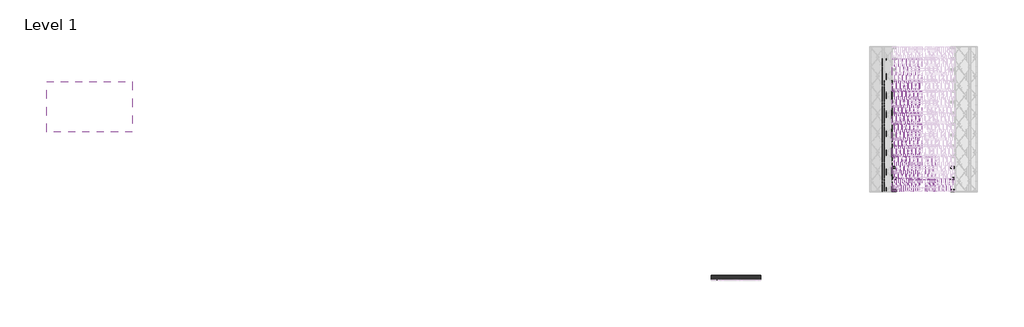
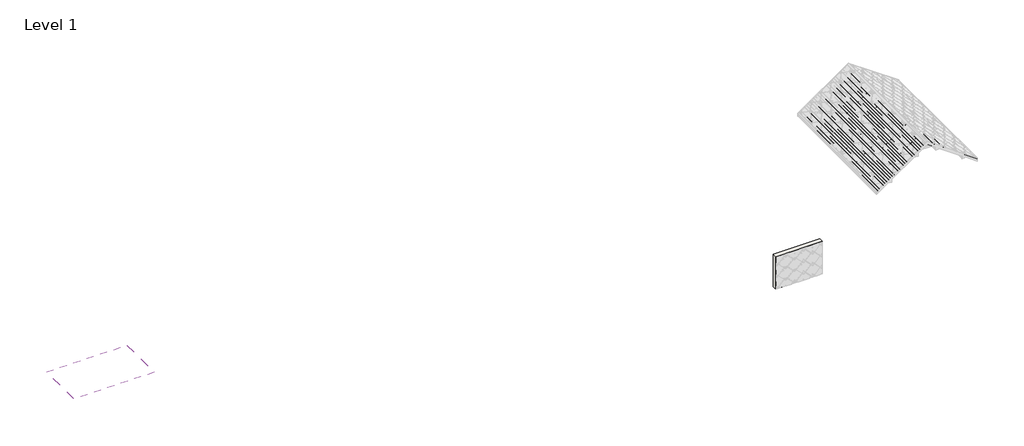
# One storey, part 1 of 5: 118 beams, 1 roof, 1 wall.
"""IFC4 building model written with IfcOpenShell, lengths in millimetres."""

from ifc_helpers import new_model, si_unit, frame, origin, origin_with_axes, place, context, project, spatial, polyline, outline, extrude, transform, mapped, element, save
from components import structural_framing_100_structural_framing_15_5def26a6, structural_framing_101_structural_framing_15_d9cf2b80, structural_framing_103_structural_framing_15_b869128d, structural_framing_109_structural_framing_15_08dff260, structural_framing_1_structural_framing_1_4f4e03de, structural_framing_14_structural_framing_1_1f79d0da, structural_framing_163_structural_framing_15_fd44f6a2, structural_framing_159_structural_framing_15_e730e61d, structural_framing_296_structural_framing_296_04115515

model = new_model("IFC4")

# Units and contexts
model_context = context("Model", 3, world=origin())
ifc_project = project(units=[si_unit("LENGTHUNIT", "METRE", prefix="MILLI")], contexts=[model_context])

# Site, building, storey
site = spatial("IfcSite", under=ifc_project)
building = spatial("IfcBuilding", under=site)
storey = spatial("IfcBuildingStorey", under=building, Name="Level 1", Elevation=0.0)

# Beams
placement = place(None, origin())
structural_framing_100_structural_framing_15_shape = structural_framing_100_structural_framing_15_5def26a6(model_context)
element("IfcBeam", 1, ObjectType="Structural Framing 100 : Structural Framing 15", at=placement, inside=storey, context=model_context, shape_type="MappedRepresentation", body=[
    mapped(structural_framing_100_structural_framing_15_shape, transform((-2427.8516115, -870.0, -1700.0), x_axis=(1.0, 0.0, 0.0), y_axis=(0.0, 1.0, 0.0), z_axis=(0.0, 0.0, 1.0))),
])
structural_framing_101_structural_framing_15_shape = structural_framing_101_structural_framing_15_d9cf2b80(model_context)
element("IfcBeam", 2, ObjectType="Structural Framing 101 : Structural Framing 15", at=placement, inside=storey, context=model_context, shape_type="MappedRepresentation", body=[
    mapped(structural_framing_101_structural_framing_15_shape, transform((-2427.8516115, -3340.0, -1700.0), x_axis=(1.0, 0.0, 0.0), y_axis=(0.0, 1.0, 0.0), z_axis=(0.0, 0.0, 1.0))),
])
element("IfcBeam", 3, ObjectType="Structural Framing 102 : Structural Framing 15", at=placement, inside=storey, context=model_context, shape_type="MappedRepresentation", body=[
    mapped(structural_framing_101_structural_framing_15_shape, transform((-2427.8516115, -5740.0, -1700.0), x_axis=(1.0, 0.0, 0.0), y_axis=(0.0, 1.0, 0.0), z_axis=(0.0, 0.0, 1.0))),
])
structural_framing_103_structural_framing_15_shape = structural_framing_103_structural_framing_15_b869128d(model_context)
element("IfcBeam", 4, ObjectType="Structural Framing 103 : Structural Framing 15", at=placement, inside=storey, context=model_context, shape_type="MappedRepresentation", body=[
    mapped(structural_framing_103_structural_framing_15_shape, transform((-2427.8516115, -8140.0, -1700.0), x_axis=(1.0, 0.0, 0.0), y_axis=(0.0, 1.0, 0.0), z_axis=(0.0, 0.0, 1.0))),
])
element("IfcBeam", 5, ObjectType="Structural Framing 106 : Structural Framing 15", at=placement, inside=storey, context=model_context, shape_type="MappedRepresentation", body=[
    mapped(structural_framing_100_structural_framing_15_shape, transform((-2570.6664121, -2470.0, -1800.0), x_axis=(1.0, 0.0, 0.0), y_axis=(0.0, 1.0, 0.0), z_axis=(0.0, 0.0, 1.0))),
])
element("IfcBeam", 6, ObjectType="Structural Framing 107 : Structural Framing 15", at=placement, inside=storey, context=model_context, shape_type="MappedRepresentation", body=[
    mapped(structural_framing_100_structural_framing_15_shape, transform((-2570.6664121, -4870.0, -1800.0), x_axis=(1.0, 0.0, 0.0), y_axis=(0.0, 1.0, 0.0), z_axis=(0.0, 0.0, 1.0))),
])
element("IfcBeam", 7, ObjectType="Structural Framing 108 : Structural Framing 15", at=placement, inside=storey, context=model_context, shape_type="MappedRepresentation", body=[
    mapped(structural_framing_100_structural_framing_15_shape, transform((-2570.6664121, -7270.0, -1800.0), x_axis=(1.0, 0.0, 0.0), y_axis=(0.0, 1.0, 0.0), z_axis=(0.0, 0.0, 1.0))),
])
structural_framing_109_structural_framing_15_shape = structural_framing_109_structural_framing_15_08dff260(model_context)
element("IfcBeam", 8, ObjectType="Structural Framing 109 : Structural Framing 15", at=placement, inside=storey, context=model_context, shape_type="MappedRepresentation", body=[
    mapped(structural_framing_109_structural_framing_15_shape, transform((-2570.6664121, -9670.0, -1800.0), x_axis=(1.0, 0.0, 0.0), y_axis=(0.0, 1.0, 0.0), z_axis=(0.0, 0.0, 1.0))),
])
element("IfcBeam", 9, ObjectType="Structural Framing 110 : Structural Framing 15", at=placement, inside=storey, context=model_context, shape_type="MappedRepresentation", body=[
    mapped(structural_framing_100_structural_framing_15_shape, transform((-2713.4812128, -870.0, -1900.0), x_axis=(1.0, 0.0, 0.0), y_axis=(0.0, 1.0, 0.0), z_axis=(0.0, 0.0, 1.0))),
])
element("IfcBeam", 10, ObjectType="Structural Framing 111 : Structural Framing 15", at=placement, inside=storey, context=model_context, shape_type="MappedRepresentation", body=[
    mapped(structural_framing_101_structural_framing_15_shape, transform((-2713.4812128, -3340.0, -1900.0), x_axis=(1.0, 0.0, 0.0), y_axis=(0.0, 1.0, 0.0), z_axis=(0.0, 0.0, 1.0))),
])
element("IfcBeam", 11, ObjectType="Structural Framing 112 : Structural Framing 15", at=placement, inside=storey, context=model_context, shape_type="MappedRepresentation", body=[
    mapped(structural_framing_101_structural_framing_15_shape, transform((-2713.4812128, -5740.0, -1900.0), x_axis=(1.0, 0.0, 0.0), y_axis=(0.0, 1.0, 0.0), z_axis=(0.0, 0.0, 1.0))),
])
element("IfcBeam", 12, ObjectType="Structural Framing 113 : Structural Framing 15", at=placement, inside=storey, context=model_context, shape_type="MappedRepresentation", body=[
    mapped(structural_framing_103_structural_framing_15_shape, transform((-2713.4812128, -8140.0, -1900.0), x_axis=(1.0, 0.0, 0.0), y_axis=(0.0, 1.0, 0.0), z_axis=(0.0, 0.0, 1.0))),
])
element("IfcBeam", 13, ObjectType="Structural Framing 116 : Structural Framing 15", at=placement, inside=storey, context=model_context, shape_type="MappedRepresentation", body=[
    mapped(structural_framing_100_structural_framing_15_shape, transform((-2856.2960135, -2470.0, -2000.0), x_axis=(1.0, 0.0, 0.0), y_axis=(0.0, 1.0, 0.0), z_axis=(0.0, 0.0, 1.0))),
])
element("IfcBeam", 14, ObjectType="Structural Framing 117 : Structural Framing 15", at=placement, inside=storey, context=model_context, shape_type="MappedRepresentation", body=[
    mapped(structural_framing_100_structural_framing_15_shape, transform((-2856.2960135, -4870.0, -2000.0), x_axis=(1.0, 0.0, 0.0), y_axis=(0.0, 1.0, 0.0), z_axis=(0.0, 0.0, 1.0))),
])
element("IfcBeam", 15, ObjectType="Structural Framing 118 : Structural Framing 15", at=placement, inside=storey, context=model_context, shape_type="MappedRepresentation", body=[
    mapped(structural_framing_100_structural_framing_15_shape, transform((-2856.2960135, -7270.0, -2000.0), x_axis=(1.0, 0.0, 0.0), y_axis=(0.0, 1.0, 0.0), z_axis=(0.0, 0.0, 1.0))),
])
element("IfcBeam", 16, ObjectType="Structural Framing 119 : Structural Framing 15", at=placement, inside=storey, context=model_context, shape_type="MappedRepresentation", body=[
    mapped(structural_framing_109_structural_framing_15_shape, transform((-2856.2960135, -9670.0, -2000.0), x_axis=(1.0, 0.0, 0.0), y_axis=(0.0, 1.0, 0.0), z_axis=(0.0, 0.0, 1.0))),
])
structural_framing_1_structural_framing_1_shape = structural_framing_1_structural_framing_1_4f4e03de(model_context)
element("IfcBeam", 17, ObjectType="Structural Framing 12 : Structural Framing 1", at=placement, inside=storey, context=model_context, shape_type="MappedRepresentation", body=[
    mapped(structural_framing_1_structural_framing_1_shape, transform((0.0, -8800.0, 0.0), x_axis=(1.0, 0.0, 0.0), y_axis=(0.0, 1.0, 0.0), z_axis=(0.0, 0.0, 1.0))),
])
element("IfcBeam", 18, ObjectType="Structural Framing 120 : Structural Framing 15", at=placement, inside=storey, context=model_context, shape_type="MappedRepresentation", body=[
    mapped(structural_framing_100_structural_framing_15_shape, transform((-2999.1108142, -870.0, -2100.0), x_axis=(1.0, 0.0, 0.0), y_axis=(0.0, 1.0, 0.0), z_axis=(0.0, 0.0, 1.0))),
])
element("IfcBeam", 19, ObjectType="Structural Framing 121 : Structural Framing 15", at=placement, inside=storey, context=model_context, shape_type="MappedRepresentation", body=[
    mapped(structural_framing_101_structural_framing_15_shape, transform((-2999.1108142, -3340.0, -2100.0), x_axis=(1.0, 0.0, 0.0), y_axis=(0.0, 1.0, 0.0), z_axis=(0.0, 0.0, 1.0))),
])
element("IfcBeam", 20, ObjectType="Structural Framing 122 : Structural Framing 15", at=placement, inside=storey, context=model_context, shape_type="MappedRepresentation", body=[
    mapped(structural_framing_101_structural_framing_15_shape, transform((-2999.1108142, -5740.0, -2100.0), x_axis=(1.0, 0.0, 0.0), y_axis=(0.0, 1.0, 0.0), z_axis=(0.0, 0.0, 1.0))),
])
element("IfcBeam", 21, ObjectType="Structural Framing 123 : Structural Framing 15", at=placement, inside=storey, context=model_context, shape_type="MappedRepresentation", body=[
    mapped(structural_framing_103_structural_framing_15_shape, transform((-2999.1108142, -8140.0, -2100.0), x_axis=(1.0, 0.0, 0.0), y_axis=(0.0, 1.0, 0.0), z_axis=(0.0, 0.0, 1.0))),
])
element("IfcBeam", 22, ObjectType="Structural Framing 126 : Structural Framing 15", at=placement, inside=storey, context=model_context, shape_type="MappedRepresentation", body=[
    mapped(structural_framing_100_structural_framing_15_shape, transform((-3141.9256148, -2470.0, -2200.0), x_axis=(1.0, 0.0, 0.0), y_axis=(0.0, 1.0, 0.0), z_axis=(0.0, 0.0, 1.0))),
])
element("IfcBeam", 23, ObjectType="Structural Framing 127 : Structural Framing 15", at=placement, inside=storey, context=model_context, shape_type="MappedRepresentation", body=[
    mapped(structural_framing_100_structural_framing_15_shape, transform((-3141.9256148, -4870.0, -2200.0), x_axis=(1.0, 0.0, 0.0), y_axis=(0.0, 1.0, 0.0), z_axis=(0.0, 0.0, 1.0))),
])
element("IfcBeam", 24, ObjectType="Structural Framing 128 : Structural Framing 15", at=placement, inside=storey, context=model_context, shape_type="MappedRepresentation", body=[
    mapped(structural_framing_100_structural_framing_15_shape, transform((-3141.9256148, -7270.0, -2200.0), x_axis=(1.0, 0.0, 0.0), y_axis=(0.0, 1.0, 0.0), z_axis=(0.0, 0.0, 1.0))),
])
element("IfcBeam", 25, ObjectType="Structural Framing 129 : Structural Framing 15", at=placement, inside=storey, context=model_context, shape_type="MappedRepresentation", body=[
    mapped(structural_framing_109_structural_framing_15_shape, transform((-3141.9256148, -9670.0, -2200.0), x_axis=(1.0, 0.0, 0.0), y_axis=(0.0, 1.0, 0.0), z_axis=(0.0, 0.0, 1.0))),
])
element("IfcBeam", 26, ObjectType="Structural Framing 13 : Structural Framing 1", at=placement, inside=storey, context=model_context, shape_type="MappedRepresentation", body=[
    mapped(structural_framing_1_structural_framing_1_shape, transform((0.0, -9600.0, 0.0), x_axis=(1.0, 0.0, 0.0), y_axis=(0.0, 1.0, 0.0), z_axis=(0.0, 0.0, 1.0))),
])
element("IfcBeam", 27, ObjectType="Structural Framing 130 : Structural Framing 15", at=placement, inside=storey, context=model_context, shape_type="MappedRepresentation", body=[
    mapped(structural_framing_100_structural_framing_15_shape, transform((-3284.7404155, -870.0, -2300.0), x_axis=(1.0, 0.0, 0.0), y_axis=(0.0, 1.0, 0.0), z_axis=(0.0, 0.0, 1.0))),
])
element("IfcBeam", 28, ObjectType="Structural Framing 131 : Structural Framing 15", at=placement, inside=storey, context=model_context, shape_type="MappedRepresentation", body=[
    mapped(structural_framing_101_structural_framing_15_shape, transform((-3284.7404155, -3340.0, -2300.0), x_axis=(1.0, 0.0, 0.0), y_axis=(0.0, 1.0, 0.0), z_axis=(0.0, 0.0, 1.0))),
])
element("IfcBeam", 29, ObjectType="Structural Framing 132 : Structural Framing 15", at=placement, inside=storey, context=model_context, shape_type="MappedRepresentation", body=[
    mapped(structural_framing_101_structural_framing_15_shape, transform((-3284.7404155, -5740.0, -2300.0), x_axis=(1.0, 0.0, 0.0), y_axis=(0.0, 1.0, 0.0), z_axis=(0.0, 0.0, 1.0))),
])
element("IfcBeam", 30, ObjectType="Structural Framing 133 : Structural Framing 15", at=placement, inside=storey, context=model_context, shape_type="MappedRepresentation", body=[
    mapped(structural_framing_103_structural_framing_15_shape, transform((-3284.7404155, -8140.0, -2300.0), x_axis=(1.0, 0.0, 0.0), y_axis=(0.0, 1.0, 0.0), z_axis=(0.0, 0.0, 1.0))),
])
element("IfcBeam", 31, ObjectType="Structural Framing 136 : Structural Framing 15", at=placement, inside=storey, context=model_context, shape_type="MappedRepresentation", body=[
    mapped(structural_framing_100_structural_framing_15_shape, transform((-3427.5552162, -2470.0, -2400.0), x_axis=(1.0, 0.0, 0.0), y_axis=(0.0, 1.0, 0.0), z_axis=(0.0, 0.0, 1.0))),
])
element("IfcBeam", 32, ObjectType="Structural Framing 137 : Structural Framing 15", at=placement, inside=storey, context=model_context, shape_type="MappedRepresentation", body=[
    mapped(structural_framing_100_structural_framing_15_shape, transform((-3427.5552162, -4870.0, -2400.0), x_axis=(1.0, 0.0, 0.0), y_axis=(0.0, 1.0, 0.0), z_axis=(0.0, 0.0, 1.0))),
])
element("IfcBeam", 33, ObjectType="Structural Framing 138 : Structural Framing 15", at=placement, inside=storey, context=model_context, shape_type="MappedRepresentation", body=[
    mapped(structural_framing_100_structural_framing_15_shape, transform((-3427.5552162, -7270.0, -2400.0), x_axis=(1.0, 0.0, 0.0), y_axis=(0.0, 1.0, 0.0), z_axis=(0.0, 0.0, 1.0))),
])
element("IfcBeam", 34, ObjectType="Structural Framing 139 : Structural Framing 15", at=placement, inside=storey, context=model_context, shape_type="MappedRepresentation", body=[
    mapped(structural_framing_109_structural_framing_15_shape, transform((-3427.5552162, -9670.0, -2400.0), x_axis=(1.0, 0.0, 0.0), y_axis=(0.0, 1.0, 0.0), z_axis=(0.0, 0.0, 1.0))),
])
structural_framing_14_structural_framing_1_shape = structural_framing_14_structural_framing_1_1f79d0da(model_context)
element("IfcBeam", 35, ObjectType="Structural Framing 14 : Structural Framing 1", at=placement, inside=storey, context=model_context, shape_type="MappedRepresentation", body=[
    mapped(structural_framing_14_structural_framing_1_shape, transform((0.0, -10488.455608, 0.0), x_axis=(1.0, 0.0, 0.0), y_axis=(0.0, 1.0, 0.0), z_axis=(0.0, 0.0, 1.0))),
])
element("IfcBeam", 36, ObjectType="Structural Framing 140 : Structural Framing 15", at=placement, inside=storey, context=model_context, shape_type="MappedRepresentation", body=[
    mapped(structural_framing_100_structural_framing_15_shape, transform((-3570.3700169, -870.0, -2500.0), x_axis=(1.0, 0.0, 0.0), y_axis=(0.0, 1.0, 0.0), z_axis=(0.0, 0.0, 1.0))),
])
element("IfcBeam", 37, ObjectType="Structural Framing 141 : Structural Framing 15", at=placement, inside=storey, context=model_context, shape_type="MappedRepresentation", body=[
    mapped(structural_framing_101_structural_framing_15_shape, transform((-3570.3700169, -3340.0, -2500.0), x_axis=(1.0, 0.0, 0.0), y_axis=(0.0, 1.0, 0.0), z_axis=(0.0, 0.0, 1.0))),
])
element("IfcBeam", 38, ObjectType="Structural Framing 142 : Structural Framing 15", at=placement, inside=storey, context=model_context, shape_type="MappedRepresentation", body=[
    mapped(structural_framing_101_structural_framing_15_shape, transform((-3570.3700169, -5740.0, -2500.0), x_axis=(1.0, 0.0, 0.0), y_axis=(0.0, 1.0, 0.0), z_axis=(0.0, 0.0, 1.0))),
])
element("IfcBeam", 39, ObjectType="Structural Framing 143 : Structural Framing 15", at=placement, inside=storey, context=model_context, shape_type="MappedRepresentation", body=[
    mapped(structural_framing_103_structural_framing_15_shape, transform((-3570.3700169, -8140.0, -2500.0), x_axis=(1.0, 0.0, 0.0), y_axis=(0.0, 1.0, 0.0), z_axis=(0.0, 0.0, 1.0))),
])
element("IfcBeam", 40, ObjectType="Structural Framing 146 : Structural Framing 15", at=placement, inside=storey, context=model_context, shape_type="MappedRepresentation", body=[
    mapped(structural_framing_100_structural_framing_15_shape, transform((-3713.1848175, -2470.0, -2600.0), x_axis=(1.0, 0.0, 0.0), y_axis=(0.0, 1.0, 0.0), z_axis=(0.0, 0.0, 1.0))),
])
element("IfcBeam", 41, ObjectType="Structural Framing 147 : Structural Framing 15", at=placement, inside=storey, context=model_context, shape_type="MappedRepresentation", body=[
    mapped(structural_framing_100_structural_framing_15_shape, transform((-3713.1848175, -4870.0, -2600.0), x_axis=(1.0, 0.0, 0.0), y_axis=(0.0, 1.0, 0.0), z_axis=(0.0, 0.0, 1.0))),
])
element("IfcBeam", 42, ObjectType="Structural Framing 148 : Structural Framing 15", at=placement, inside=storey, context=model_context, shape_type="MappedRepresentation", body=[
    mapped(structural_framing_100_structural_framing_15_shape, transform((-3713.1848175, -7270.0, -2600.0), x_axis=(1.0, 0.0, 0.0), y_axis=(0.0, 1.0, 0.0), z_axis=(0.0, 0.0, 1.0))),
])
element("IfcBeam", 43, ObjectType="Structural Framing 149 : Structural Framing 15", at=placement, inside=storey, context=model_context, shape_type="MappedRepresentation", body=[
    mapped(structural_framing_109_structural_framing_15_shape, transform((-3713.1848175, -9670.0, -2600.0), x_axis=(1.0, 0.0, 0.0), y_axis=(0.0, 1.0, 0.0), z_axis=(0.0, 0.0, 1.0))),
])
structural_framing_163_structural_framing_15_shape = structural_framing_163_structural_framing_15_fd44f6a2(model_context)
element("IfcBeam", 44, ObjectType="Structural Framing 163 : Structural Framing 15", at=placement, inside=storey, context=model_context, shape_type="MappedRepresentation", body=[
    mapped(structural_framing_163_structural_framing_15_shape, transform((142.8148007, -8140.0, -100.0), x_axis=(1.0, 0.0, 0.0), y_axis=(0.0, 1.0, 0.0), z_axis=(0.0, 0.0, 1.0))),
])
structural_framing_159_structural_framing_15_shape = structural_framing_159_structural_framing_15_e730e61d(model_context)
element("IfcBeam", 45, ObjectType="Structural Framing 169 : Structural Framing 15", at=placement, inside=storey, context=model_context, shape_type="MappedRepresentation", body=[
    mapped(structural_framing_159_structural_framing_15_shape, transform((285.6296013, -9670.0, -200.0), x_axis=(1.0, 0.0, 0.0), y_axis=(0.0, 1.0, 0.0), z_axis=(0.0, 0.0, 1.0))),
])
element("IfcBeam", 46, ObjectType="Structural Framing 173 : Structural Framing 15", at=placement, inside=storey, context=model_context, shape_type="MappedRepresentation", body=[
    mapped(structural_framing_163_structural_framing_15_shape, transform((428.444402, -8140.0, -300.0), x_axis=(1.0, 0.0, 0.0), y_axis=(0.0, 1.0, 0.0), z_axis=(0.0, 0.0, 1.0))),
])
element("IfcBeam", 47, ObjectType="Structural Framing 179 : Structural Framing 15", at=placement, inside=storey, context=model_context, shape_type="MappedRepresentation", body=[
    mapped(structural_framing_159_structural_framing_15_shape, transform((571.2592027, -9670.0, -400.0), x_axis=(1.0, 0.0, 0.0), y_axis=(0.0, 1.0, 0.0), z_axis=(0.0, 0.0, 1.0))),
])
element("IfcBeam", 48, ObjectType="Structural Framing 183 : Structural Framing 15", at=placement, inside=storey, context=model_context, shape_type="MappedRepresentation", body=[
    mapped(structural_framing_163_structural_framing_15_shape, transform((714.0740034, -8140.0, -500.0), x_axis=(1.0, 0.0, 0.0), y_axis=(0.0, 1.0, 0.0), z_axis=(0.0, 0.0, 1.0))),
])
element("IfcBeam", 49, ObjectType="Structural Framing 189 : Structural Framing 15", at=placement, inside=storey, context=model_context, shape_type="MappedRepresentation", body=[
    mapped(structural_framing_159_structural_framing_15_shape, transform((856.888804, -9670.0, -600.0), x_axis=(1.0, 0.0, 0.0), y_axis=(0.0, 1.0, 0.0), z_axis=(0.0, 0.0, 1.0))),
])
element("IfcBeam", 50, ObjectType="Structural Framing 199 : Structural Framing 15", at=placement, inside=storey, context=model_context, shape_type="MappedRepresentation", body=[
    mapped(structural_framing_159_structural_framing_15_shape, transform((1142.5184054, -9670.0, -800.0), x_axis=(1.0, 0.0, 0.0), y_axis=(0.0, 1.0, 0.0), z_axis=(0.0, 0.0, 1.0))),
])
element("IfcBeam", 51, ObjectType="Structural Framing 20 : Structural Framing 15", at=placement, inside=storey, context=model_context, shape_type="MappedRepresentation", body=[
    mapped(structural_framing_100_structural_framing_15_shape, transform((-142.8148007, -870.0, -100.0), x_axis=(1.0, 0.0, 0.0), y_axis=(0.0, 1.0, 0.0), z_axis=(0.0, 0.0, 1.0))),
])
element("IfcBeam", 52, ObjectType="Structural Framing 209 : Structural Framing 15", at=placement, inside=storey, context=model_context, shape_type="MappedRepresentation", body=[
    mapped(structural_framing_159_structural_framing_15_shape, transform((1428.1480067, -9670.0, -1000.0), x_axis=(1.0, 0.0, 0.0), y_axis=(0.0, 1.0, 0.0), z_axis=(0.0, 0.0, 1.0))),
])
element("IfcBeam", 53, ObjectType="Structural Framing 21 : Structural Framing 15", at=placement, inside=storey, context=model_context, shape_type="MappedRepresentation", body=[
    mapped(structural_framing_101_structural_framing_15_shape, transform((-142.8148007, -3340.0, -100.0), x_axis=(1.0, 0.0, 0.0), y_axis=(0.0, 1.0, 0.0), z_axis=(0.0, 0.0, 1.0))),
])
element("IfcBeam", 54, ObjectType="Structural Framing 219 : Structural Framing 15", at=placement, inside=storey, context=model_context, shape_type="MappedRepresentation", body=[
    mapped(structural_framing_159_structural_framing_15_shape, transform((1713.7776081, -9670.0, -1200.0), x_axis=(1.0, 0.0, 0.0), y_axis=(0.0, 1.0, 0.0), z_axis=(0.0, 0.0, 1.0))),
])
element("IfcBeam", 55, ObjectType="Structural Framing 22 : Structural Framing 15", at=placement, inside=storey, context=model_context, shape_type="MappedRepresentation", body=[
    mapped(structural_framing_101_structural_framing_15_shape, transform((-142.8148007, -5740.0, -100.0), x_axis=(1.0, 0.0, 0.0), y_axis=(0.0, 1.0, 0.0), z_axis=(0.0, 0.0, 1.0))),
])
element("IfcBeam", 56, ObjectType="Structural Framing 229 : Structural Framing 15", at=placement, inside=storey, context=model_context, shape_type="MappedRepresentation", body=[
    mapped(structural_framing_159_structural_framing_15_shape, transform((1999.4072094, -9670.0, -1400.0), x_axis=(1.0, 0.0, 0.0), y_axis=(0.0, 1.0, 0.0), z_axis=(0.0, 0.0, 1.0))),
])
element("IfcBeam", 57, ObjectType="Structural Framing 23 : Structural Framing 15", at=placement, inside=storey, context=model_context, shape_type="MappedRepresentation", body=[
    mapped(structural_framing_103_structural_framing_15_shape, transform((-142.8148007, -8140.0, -100.0), x_axis=(1.0, 0.0, 0.0), y_axis=(0.0, 1.0, 0.0), z_axis=(0.0, 0.0, 1.0))),
])
element("IfcBeam", 58, ObjectType="Structural Framing 26 : Structural Framing 15", at=placement, inside=storey, context=model_context, shape_type="MappedRepresentation", body=[
    mapped(structural_framing_100_structural_framing_15_shape, transform((-285.6296013, -2470.0, -200.0), x_axis=(1.0, 0.0, 0.0), y_axis=(0.0, 1.0, 0.0), z_axis=(0.0, 0.0, 1.0))),
])
element("IfcBeam", 59, ObjectType="Structural Framing 27 : Structural Framing 15", at=placement, inside=storey, context=model_context, shape_type="MappedRepresentation", body=[
    mapped(structural_framing_100_structural_framing_15_shape, transform((-285.6296013, -4870.0, -200.0), x_axis=(1.0, 0.0, 0.0), y_axis=(0.0, 1.0, 0.0), z_axis=(0.0, 0.0, 1.0))),
])
element("IfcBeam", 60, ObjectType="Structural Framing 28 : Structural Framing 15", at=placement, inside=storey, context=model_context, shape_type="MappedRepresentation", body=[
    mapped(structural_framing_100_structural_framing_15_shape, transform((-285.6296013, -7270.0, -200.0), x_axis=(1.0, 0.0, 0.0), y_axis=(0.0, 1.0, 0.0), z_axis=(0.0, 0.0, 1.0))),
])
element("IfcBeam", 61, ObjectType="Structural Framing 29 : Structural Framing 15", at=placement, inside=storey, context=model_context, shape_type="MappedRepresentation", body=[
    mapped(structural_framing_109_structural_framing_15_shape, transform((-285.6296013, -9670.0, -200.0), x_axis=(1.0, 0.0, 0.0), y_axis=(0.0, 1.0, 0.0), z_axis=(0.0, 0.0, 1.0))),
])
element("IfcBeam", 62, ObjectType="Structural Framing 30 : Structural Framing 15", at=placement, inside=storey, context=model_context, shape_type="MappedRepresentation", body=[
    mapped(structural_framing_100_structural_framing_15_shape, transform((-428.444402, -870.0, -300.0), x_axis=(1.0, 0.0, 0.0), y_axis=(0.0, 1.0, 0.0), z_axis=(0.0, 0.0, 1.0))),
])
element("IfcBeam", 63, ObjectType="Structural Framing 31 : Structural Framing 15", at=placement, inside=storey, context=model_context, shape_type="MappedRepresentation", body=[
    mapped(structural_framing_101_structural_framing_15_shape, transform((-428.444402, -3340.0, -300.0), x_axis=(1.0, 0.0, 0.0), y_axis=(0.0, 1.0, 0.0), z_axis=(0.0, 0.0, 1.0))),
])
structural_framing_296_structural_framing_296_shape = structural_framing_296_structural_framing_296_04115515(model_context)
element("IfcBeam", 64, ObjectType="Structural Framing 319 : Structural Framing 296", at=placement, inside=storey, context=model_context, shape_type="MappedRepresentation", body=[
    mapped(structural_framing_296_structural_framing_296_shape, transform((0.0, -9600.0, 0.0), x_axis=(1.0, 0.0, 0.0), y_axis=(0.0, 1.0, 0.0), z_axis=(0.0, 0.0, 1.0))),
])
element("IfcBeam", 65, ObjectType="Structural Framing 32 : Structural Framing 15", at=placement, inside=storey, context=model_context, shape_type="MappedRepresentation", body=[
    mapped(structural_framing_101_structural_framing_15_shape, transform((-428.444402, -5740.0, -300.0), x_axis=(1.0, 0.0, 0.0), y_axis=(0.0, 1.0, 0.0), z_axis=(0.0, 0.0, 1.0))),
])
element("IfcBeam", 66, ObjectType="Structural Framing 33 : Structural Framing 15", at=placement, inside=storey, context=model_context, shape_type="MappedRepresentation", body=[
    mapped(structural_framing_103_structural_framing_15_shape, transform((-428.444402, -8140.0, -300.0), x_axis=(1.0, 0.0, 0.0), y_axis=(0.0, 1.0, 0.0), z_axis=(0.0, 0.0, 1.0))),
])
element("IfcBeam", 67, ObjectType="Structural Framing 36 : Structural Framing 15", at=placement, inside=storey, context=model_context, shape_type="MappedRepresentation", body=[
    mapped(structural_framing_100_structural_framing_15_shape, transform((-571.2592027, -2470.0, -400.0), x_axis=(1.0, 0.0, 0.0), y_axis=(0.0, 1.0, 0.0), z_axis=(0.0, 0.0, 1.0))),
])
element("IfcBeam", 68, ObjectType="Structural Framing 37 : Structural Framing 15", at=placement, inside=storey, context=model_context, shape_type="MappedRepresentation", body=[
    mapped(structural_framing_100_structural_framing_15_shape, transform((-571.2592027, -4870.0, -400.0), x_axis=(1.0, 0.0, 0.0), y_axis=(0.0, 1.0, 0.0), z_axis=(0.0, 0.0, 1.0))),
])
element("IfcBeam", 69, ObjectType="Structural Framing 38 : Structural Framing 15", at=placement, inside=storey, context=model_context, shape_type="MappedRepresentation", body=[
    mapped(structural_framing_100_structural_framing_15_shape, transform((-571.2592027, -7270.0, -400.0), x_axis=(1.0, 0.0, 0.0), y_axis=(0.0, 1.0, 0.0), z_axis=(0.0, 0.0, 1.0))),
])
element("IfcBeam", 70, ObjectType="Structural Framing 39 : Structural Framing 15", at=placement, inside=storey, context=model_context, shape_type="MappedRepresentation", body=[
    mapped(structural_framing_109_structural_framing_15_shape, transform((-571.2592027, -9670.0, -400.0), x_axis=(1.0, 0.0, 0.0), y_axis=(0.0, 1.0, 0.0), z_axis=(0.0, 0.0, 1.0))),
])
element("IfcBeam", 71, ObjectType="Structural Framing 40 : Structural Framing 15", at=placement, inside=storey, context=model_context, shape_type="MappedRepresentation", body=[
    mapped(structural_framing_100_structural_framing_15_shape, transform((-714.0740034, -870.0, -500.0), x_axis=(1.0, 0.0, 0.0), y_axis=(0.0, 1.0, 0.0), z_axis=(0.0, 0.0, 1.0))),
])
element("IfcBeam", 72, ObjectType="Structural Framing 41 : Structural Framing 15", at=placement, inside=storey, context=model_context, shape_type="MappedRepresentation", body=[
    mapped(structural_framing_101_structural_framing_15_shape, transform((-714.0740034, -3340.0, -500.0), x_axis=(1.0, 0.0, 0.0), y_axis=(0.0, 1.0, 0.0), z_axis=(0.0, 0.0, 1.0))),
])
element("IfcBeam", 73, ObjectType="Structural Framing 42 : Structural Framing 15", at=placement, inside=storey, context=model_context, shape_type="MappedRepresentation", body=[
    mapped(structural_framing_101_structural_framing_15_shape, transform((-714.0740034, -5740.0, -500.0), x_axis=(1.0, 0.0, 0.0), y_axis=(0.0, 1.0, 0.0), z_axis=(0.0, 0.0, 1.0))),
])
element("IfcBeam", 74, ObjectType="Structural Framing 43 : Structural Framing 15", at=placement, inside=storey, context=model_context, shape_type="MappedRepresentation", body=[
    mapped(structural_framing_103_structural_framing_15_shape, transform((-714.0740034, -8140.0, -500.0), x_axis=(1.0, 0.0, 0.0), y_axis=(0.0, 1.0, 0.0), z_axis=(0.0, 0.0, 1.0))),
])
element("IfcBeam", 75, ObjectType="Structural Framing 46 : Structural Framing 15", at=placement, inside=storey, context=model_context, shape_type="MappedRepresentation", body=[
    mapped(structural_framing_100_structural_framing_15_shape, transform((-856.888804, -2470.0, -600.0), x_axis=(1.0, 0.0, 0.0), y_axis=(0.0, 1.0, 0.0), z_axis=(0.0, 0.0, 1.0))),
])
element("IfcBeam", 76, ObjectType="Structural Framing 47 : Structural Framing 15", at=placement, inside=storey, context=model_context, shape_type="MappedRepresentation", body=[
    mapped(structural_framing_100_structural_framing_15_shape, transform((-856.888804, -4870.0, -600.0), x_axis=(1.0, 0.0, 0.0), y_axis=(0.0, 1.0, 0.0), z_axis=(0.0, 0.0, 1.0))),
])
element("IfcBeam", 77, ObjectType="Structural Framing 48 : Structural Framing 15", at=placement, inside=storey, context=model_context, shape_type="MappedRepresentation", body=[
    mapped(structural_framing_100_structural_framing_15_shape, transform((-856.888804, -7270.0, -600.0), x_axis=(1.0, 0.0, 0.0), y_axis=(0.0, 1.0, 0.0), z_axis=(0.0, 0.0, 1.0))),
])
element("IfcBeam", 78, ObjectType="Structural Framing 49 : Structural Framing 15", at=placement, inside=storey, context=model_context, shape_type="MappedRepresentation", body=[
    mapped(structural_framing_109_structural_framing_15_shape, transform((-856.888804, -9670.0, -600.0), x_axis=(1.0, 0.0, 0.0), y_axis=(0.0, 1.0, 0.0), z_axis=(0.0, 0.0, 1.0))),
])
element("IfcBeam", 79, ObjectType="Structural Framing 50 : Structural Framing 15", at=placement, inside=storey, context=model_context, shape_type="MappedRepresentation", body=[
    mapped(structural_framing_100_structural_framing_15_shape, transform((-999.7036047, -870.0, -700.0), x_axis=(1.0, 0.0, 0.0), y_axis=(0.0, 1.0, 0.0), z_axis=(0.0, 0.0, 1.0))),
])
element("IfcBeam", 80, ObjectType="Structural Framing 51 : Structural Framing 15", at=placement, inside=storey, context=model_context, shape_type="MappedRepresentation", body=[
    mapped(structural_framing_101_structural_framing_15_shape, transform((-999.7036047, -3340.0, -700.0), x_axis=(1.0, 0.0, 0.0), y_axis=(0.0, 1.0, 0.0), z_axis=(0.0, 0.0, 1.0))),
])
element("IfcBeam", 81, ObjectType="Structural Framing 52 : Structural Framing 15", at=placement, inside=storey, context=model_context, shape_type="MappedRepresentation", body=[
    mapped(structural_framing_101_structural_framing_15_shape, transform((-999.7036047, -5740.0, -700.0), x_axis=(1.0, 0.0, 0.0), y_axis=(0.0, 1.0, 0.0), z_axis=(0.0, 0.0, 1.0))),
])
element("IfcBeam", 82, ObjectType="Structural Framing 53 : Structural Framing 15", at=placement, inside=storey, context=model_context, shape_type="MappedRepresentation", body=[
    mapped(structural_framing_103_structural_framing_15_shape, transform((-999.7036047, -8140.0, -700.0), x_axis=(1.0, 0.0, 0.0), y_axis=(0.0, 1.0, 0.0), z_axis=(0.0, 0.0, 1.0))),
])
element("IfcBeam", 83, ObjectType="Structural Framing 56 : Structural Framing 15", at=placement, inside=storey, context=model_context, shape_type="MappedRepresentation", body=[
    mapped(structural_framing_100_structural_framing_15_shape, transform((-1142.5184054, -2470.0, -800.0), x_axis=(1.0, 0.0, 0.0), y_axis=(0.0, 1.0, 0.0), z_axis=(0.0, 0.0, 1.0))),
])
element("IfcBeam", 84, ObjectType="Structural Framing 57 : Structural Framing 15", at=placement, inside=storey, context=model_context, shape_type="MappedRepresentation", body=[
    mapped(structural_framing_100_structural_framing_15_shape, transform((-1142.5184054, -4870.0, -800.0), x_axis=(1.0, 0.0, 0.0), y_axis=(0.0, 1.0, 0.0), z_axis=(0.0, 0.0, 1.0))),
])
element("IfcBeam", 85, ObjectType="Structural Framing 58 : Structural Framing 15", at=placement, inside=storey, context=model_context, shape_type="MappedRepresentation", body=[
    mapped(structural_framing_100_structural_framing_15_shape, transform((-1142.5184054, -7270.0, -800.0), x_axis=(1.0, 0.0, 0.0), y_axis=(0.0, 1.0, 0.0), z_axis=(0.0, 0.0, 1.0))),
])
element("IfcBeam", 86, ObjectType="Structural Framing 59 : Structural Framing 15", at=placement, inside=storey, context=model_context, shape_type="MappedRepresentation", body=[
    mapped(structural_framing_109_structural_framing_15_shape, transform((-1142.5184054, -9670.0, -800.0), x_axis=(1.0, 0.0, 0.0), y_axis=(0.0, 1.0, 0.0), z_axis=(0.0, 0.0, 1.0))),
])
element("IfcBeam", 87, ObjectType="Structural Framing 60 : Structural Framing 15", at=placement, inside=storey, context=model_context, shape_type="MappedRepresentation", body=[
    mapped(structural_framing_100_structural_framing_15_shape, transform((-1285.3332061, -870.0, -900.0), x_axis=(1.0, 0.0, 0.0), y_axis=(0.0, 1.0, 0.0), z_axis=(0.0, 0.0, 1.0))),
])
element("IfcBeam", 88, ObjectType="Structural Framing 61 : Structural Framing 15", at=placement, inside=storey, context=model_context, shape_type="MappedRepresentation", body=[
    mapped(structural_framing_101_structural_framing_15_shape, transform((-1285.3332061, -3340.0, -900.0), x_axis=(1.0, 0.0, 0.0), y_axis=(0.0, 1.0, 0.0), z_axis=(0.0, 0.0, 1.0))),
])
element("IfcBeam", 89, ObjectType="Structural Framing 62 : Structural Framing 15", at=placement, inside=storey, context=model_context, shape_type="MappedRepresentation", body=[
    mapped(structural_framing_101_structural_framing_15_shape, transform((-1285.3332061, -5740.0, -900.0), x_axis=(1.0, 0.0, 0.0), y_axis=(0.0, 1.0, 0.0), z_axis=(0.0, 0.0, 1.0))),
])
element("IfcBeam", 90, ObjectType="Structural Framing 63 : Structural Framing 15", at=placement, inside=storey, context=model_context, shape_type="MappedRepresentation", body=[
    mapped(structural_framing_103_structural_framing_15_shape, transform((-1285.3332061, -8140.0, -900.0), x_axis=(1.0, 0.0, 0.0), y_axis=(0.0, 1.0, 0.0), z_axis=(0.0, 0.0, 1.0))),
])
element("IfcBeam", 91, ObjectType="Structural Framing 66 : Structural Framing 15", at=placement, inside=storey, context=model_context, shape_type="MappedRepresentation", body=[
    mapped(structural_framing_100_structural_framing_15_shape, transform((-1428.1480067, -2470.0, -1000.0), x_axis=(1.0, 0.0, 0.0), y_axis=(0.0, 1.0, 0.0), z_axis=(0.0, 0.0, 1.0))),
])
element("IfcBeam", 92, ObjectType="Structural Framing 67 : Structural Framing 15", at=placement, inside=storey, context=model_context, shape_type="MappedRepresentation", body=[
    mapped(structural_framing_100_structural_framing_15_shape, transform((-1428.1480067, -4870.0, -1000.0), x_axis=(1.0, 0.0, 0.0), y_axis=(0.0, 1.0, 0.0), z_axis=(0.0, 0.0, 1.0))),
])
element("IfcBeam", 93, ObjectType="Structural Framing 68 : Structural Framing 15", at=placement, inside=storey, context=model_context, shape_type="MappedRepresentation", body=[
    mapped(structural_framing_100_structural_framing_15_shape, transform((-1428.1480067, -7270.0, -1000.0), x_axis=(1.0, 0.0, 0.0), y_axis=(0.0, 1.0, 0.0), z_axis=(0.0, 0.0, 1.0))),
])
element("IfcBeam", 94, ObjectType="Structural Framing 69 : Structural Framing 15", at=placement, inside=storey, context=model_context, shape_type="MappedRepresentation", body=[
    mapped(structural_framing_109_structural_framing_15_shape, transform((-1428.1480067, -9670.0, -1000.0), x_axis=(1.0, 0.0, 0.0), y_axis=(0.0, 1.0, 0.0), z_axis=(0.0, 0.0, 1.0))),
])
element("IfcBeam", 95, ObjectType="Structural Framing 70 : Structural Framing 15", at=placement, inside=storey, context=model_context, shape_type="MappedRepresentation", body=[
    mapped(structural_framing_100_structural_framing_15_shape, transform((-1570.9628074, -870.0, -1100.0), x_axis=(1.0, 0.0, 0.0), y_axis=(0.0, 1.0, 0.0), z_axis=(0.0, 0.0, 1.0))),
])
element("IfcBeam", 96, ObjectType="Structural Framing 71 : Structural Framing 15", at=placement, inside=storey, context=model_context, shape_type="MappedRepresentation", body=[
    mapped(structural_framing_101_structural_framing_15_shape, transform((-1570.9628074, -3340.0, -1100.0), x_axis=(1.0, 0.0, 0.0), y_axis=(0.0, 1.0, 0.0), z_axis=(0.0, 0.0, 1.0))),
])
element("IfcBeam", 97, ObjectType="Structural Framing 72 : Structural Framing 15", at=placement, inside=storey, context=model_context, shape_type="MappedRepresentation", body=[
    mapped(structural_framing_101_structural_framing_15_shape, transform((-1570.9628074, -5740.0, -1100.0), x_axis=(1.0, 0.0, 0.0), y_axis=(0.0, 1.0, 0.0), z_axis=(0.0, 0.0, 1.0))),
])
element("IfcBeam", 98, ObjectType="Structural Framing 73 : Structural Framing 15", at=placement, inside=storey, context=model_context, shape_type="MappedRepresentation", body=[
    mapped(structural_framing_103_structural_framing_15_shape, transform((-1570.9628074, -8140.0, -1100.0), x_axis=(1.0, 0.0, 0.0), y_axis=(0.0, 1.0, 0.0), z_axis=(0.0, 0.0, 1.0))),
])
element("IfcBeam", 99, ObjectType="Structural Framing 76 : Structural Framing 15", at=placement, inside=storey, context=model_context, shape_type="MappedRepresentation", body=[
    mapped(structural_framing_100_structural_framing_15_shape, transform((-1713.7776081, -2470.0, -1200.0), x_axis=(1.0, 0.0, 0.0), y_axis=(0.0, 1.0, 0.0), z_axis=(0.0, 0.0, 1.0))),
])
element("IfcBeam", 100, ObjectType="Structural Framing 77 : Structural Framing 15", at=placement, inside=storey, context=model_context, shape_type="MappedRepresentation", body=[
    mapped(structural_framing_100_structural_framing_15_shape, transform((-1713.7776081, -4870.0, -1200.0), x_axis=(1.0, 0.0, 0.0), y_axis=(0.0, 1.0, 0.0), z_axis=(0.0, 0.0, 1.0))),
])
element("IfcBeam", 101, ObjectType="Structural Framing 78 : Structural Framing 15", at=placement, inside=storey, context=model_context, shape_type="MappedRepresentation", body=[
    mapped(structural_framing_100_structural_framing_15_shape, transform((-1713.7776081, -7270.0, -1200.0), x_axis=(1.0, 0.0, 0.0), y_axis=(0.0, 1.0, 0.0), z_axis=(0.0, 0.0, 1.0))),
])
element("IfcBeam", 102, ObjectType="Structural Framing 79 : Structural Framing 15", at=placement, inside=storey, context=model_context, shape_type="MappedRepresentation", body=[
    mapped(structural_framing_109_structural_framing_15_shape, transform((-1713.7776081, -9670.0, -1200.0), x_axis=(1.0, 0.0, 0.0), y_axis=(0.0, 1.0, 0.0), z_axis=(0.0, 0.0, 1.0))),
])
element("IfcBeam", 103, ObjectType="Structural Framing 80 : Structural Framing 15", at=placement, inside=storey, context=model_context, shape_type="MappedRepresentation", body=[
    mapped(structural_framing_100_structural_framing_15_shape, transform((-1856.5924088, -870.0, -1300.0), x_axis=(1.0, 0.0, 0.0), y_axis=(0.0, 1.0, 0.0), z_axis=(0.0, 0.0, 1.0))),
])
element("IfcBeam", 104, ObjectType="Structural Framing 81 : Structural Framing 15", at=placement, inside=storey, context=model_context, shape_type="MappedRepresentation", body=[
    mapped(structural_framing_101_structural_framing_15_shape, transform((-1856.5924088, -3340.0, -1300.0), x_axis=(1.0, 0.0, 0.0), y_axis=(0.0, 1.0, 0.0), z_axis=(0.0, 0.0, 1.0))),
])
element("IfcBeam", 105, ObjectType="Structural Framing 82 : Structural Framing 15", at=placement, inside=storey, context=model_context, shape_type="MappedRepresentation", body=[
    mapped(structural_framing_101_structural_framing_15_shape, transform((-1856.5924088, -5740.0, -1300.0), x_axis=(1.0, 0.0, 0.0), y_axis=(0.0, 1.0, 0.0), z_axis=(0.0, 0.0, 1.0))),
])
element("IfcBeam", 106, ObjectType="Structural Framing 83 : Structural Framing 15", at=placement, inside=storey, context=model_context, shape_type="MappedRepresentation", body=[
    mapped(structural_framing_103_structural_framing_15_shape, transform((-1856.5924088, -8140.0, -1300.0), x_axis=(1.0, 0.0, 0.0), y_axis=(0.0, 1.0, 0.0), z_axis=(0.0, 0.0, 1.0))),
])
element("IfcBeam", 107, ObjectType="Structural Framing 86 : Structural Framing 15", at=placement, inside=storey, context=model_context, shape_type="MappedRepresentation", body=[
    mapped(structural_framing_100_structural_framing_15_shape, transform((-1999.4072094, -2470.0, -1400.0), x_axis=(1.0, 0.0, 0.0), y_axis=(0.0, 1.0, 0.0), z_axis=(0.0, 0.0, 1.0))),
])
element("IfcBeam", 108, ObjectType="Structural Framing 87 : Structural Framing 15", at=placement, inside=storey, context=model_context, shape_type="MappedRepresentation", body=[
    mapped(structural_framing_100_structural_framing_15_shape, transform((-1999.4072094, -4870.0, -1400.0), x_axis=(1.0, 0.0, 0.0), y_axis=(0.0, 1.0, 0.0), z_axis=(0.0, 0.0, 1.0))),
])
element("IfcBeam", 109, ObjectType="Structural Framing 88 : Structural Framing 15", at=placement, inside=storey, context=model_context, shape_type="MappedRepresentation", body=[
    mapped(structural_framing_100_structural_framing_15_shape, transform((-1999.4072094, -7270.0, -1400.0), x_axis=(1.0, 0.0, 0.0), y_axis=(0.0, 1.0, 0.0), z_axis=(0.0, 0.0, 1.0))),
])
element("IfcBeam", 110, ObjectType="Structural Framing 89 : Structural Framing 15", at=placement, inside=storey, context=model_context, shape_type="MappedRepresentation", body=[
    mapped(structural_framing_109_structural_framing_15_shape, transform((-1999.4072094, -9670.0, -1400.0), x_axis=(1.0, 0.0, 0.0), y_axis=(0.0, 1.0, 0.0), z_axis=(0.0, 0.0, 1.0))),
])
element("IfcBeam", 111, ObjectType="Structural Framing 90 : Structural Framing 15", at=placement, inside=storey, context=model_context, shape_type="MappedRepresentation", body=[
    mapped(structural_framing_100_structural_framing_15_shape, transform((-2142.2220101, -870.0, -1500.0), x_axis=(1.0, 0.0, 0.0), y_axis=(0.0, 1.0, 0.0), z_axis=(0.0, 0.0, 1.0))),
])
element("IfcBeam", 112, ObjectType="Structural Framing 91 : Structural Framing 15", at=placement, inside=storey, context=model_context, shape_type="MappedRepresentation", body=[
    mapped(structural_framing_101_structural_framing_15_shape, transform((-2142.2220101, -3340.0, -1500.0), x_axis=(1.0, 0.0, 0.0), y_axis=(0.0, 1.0, 0.0), z_axis=(0.0, 0.0, 1.0))),
])
element("IfcBeam", 113, ObjectType="Structural Framing 92 : Structural Framing 15", at=placement, inside=storey, context=model_context, shape_type="MappedRepresentation", body=[
    mapped(structural_framing_101_structural_framing_15_shape, transform((-2142.2220101, -5740.0, -1500.0), x_axis=(1.0, 0.0, 0.0), y_axis=(0.0, 1.0, 0.0), z_axis=(0.0, 0.0, 1.0))),
])
element("IfcBeam", 114, ObjectType="Structural Framing 93 : Structural Framing 15", at=placement, inside=storey, context=model_context, shape_type="MappedRepresentation", body=[
    mapped(structural_framing_103_structural_framing_15_shape, transform((-2142.2220101, -8140.0, -1500.0), x_axis=(1.0, 0.0, 0.0), y_axis=(0.0, 1.0, 0.0), z_axis=(0.0, 0.0, 1.0))),
])
element("IfcBeam", 115, ObjectType="Structural Framing 96 : Structural Framing 15", at=placement, inside=storey, context=model_context, shape_type="MappedRepresentation", body=[
    mapped(structural_framing_100_structural_framing_15_shape, transform((-2285.0368108, -2470.0, -1600.0), x_axis=(1.0, 0.0, 0.0), y_axis=(0.0, 1.0, 0.0), z_axis=(0.0, 0.0, 1.0))),
])
element("IfcBeam", 116, ObjectType="Structural Framing 97 : Structural Framing 15", at=placement, inside=storey, context=model_context, shape_type="MappedRepresentation", body=[
    mapped(structural_framing_100_structural_framing_15_shape, transform((-2285.0368108, -4870.0, -1600.0), x_axis=(1.0, 0.0, 0.0), y_axis=(0.0, 1.0, 0.0), z_axis=(0.0, 0.0, 1.0))),
])
element("IfcBeam", 117, ObjectType="Structural Framing 98 : Structural Framing 15", at=placement, inside=storey, context=model_context, shape_type="MappedRepresentation", body=[
    mapped(structural_framing_100_structural_framing_15_shape, transform((-2285.0368108, -7270.0, -1600.0), x_axis=(1.0, 0.0, 0.0), y_axis=(0.0, 1.0, 0.0), z_axis=(0.0, 0.0, 1.0))),
])
element("IfcBeam", 118, ObjectType="Structural Framing 99 : Structural Framing 15", at=placement, inside=storey, context=model_context, shape_type="MappedRepresentation", body=[
    mapped(structural_framing_109_structural_framing_15_shape, transform((-2285.0368108, -9670.0, -1600.0), x_axis=(1.0, 0.0, 0.0), y_axis=(0.0, 1.0, 0.0), z_axis=(0.0, 0.0, 1.0))),
])

# Roof
element("IfcRoof", 119, ObjectType="Generic Roof - 300mm", at=placement, inside=storey, context=model_context, shape_type="SweptSolid", body=[
    extrude(outline(polyline([(-2346.9163659, 1731.2493439), (1374.8278068, 3879.9993439), (1374.8278068, 3533.5891824), (-2346.9163659, 1384.8391824), (-2346.9163659, 1731.2493439)])), frame((-63110.6645932, 0.0, 0.0), z_axis=(1.0, 0.0, 0.0), x_axis=(0.0, 1.0, 0.0)), (0.0, 0.0, 1.0), 6300.0),
])

# Wall
element("IfcWall", 120, ObjectType="Exterior - Brick on Mtl. Stud", at=placement, inside=storey, context=model_context, shape_type="SweptSolid", body=[
    extrude(outline(polyline([(-10747.7909552, -13191.8736519), (-14367.7909552, -13191.8736519), (-14367.7909552, -12841.8736519), (-10747.7909552, -12841.8736519), (-10747.7909552, -13191.8736519)])), origin_with_axes(), (0.0, 0.0, 1.0), 2687.5),
])

save(model, "model.ifc")
